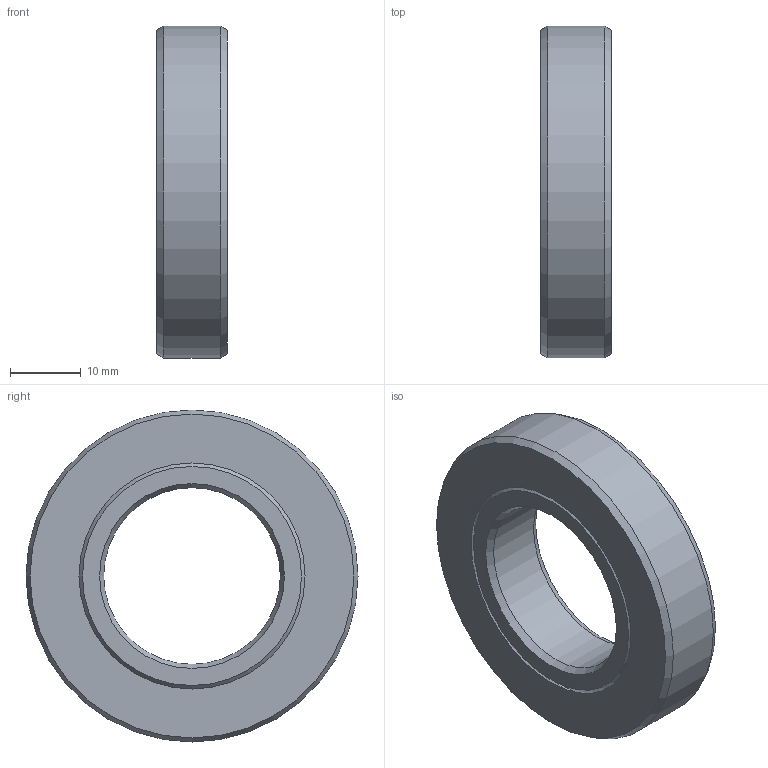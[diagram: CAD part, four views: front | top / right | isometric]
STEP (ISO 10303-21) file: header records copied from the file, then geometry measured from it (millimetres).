
FILE_DESCRIPTION(/* description */ (''),/* implementation_level */ '2;1');
FILE_NAME(/* name */ '301523 S25x47x10.stp',/* time_stamp */ '2016-12-16T13:29:25+01:00',/* author */ (''),/* organization */ (''),/* preprocessor_version */ 'ST-DEVELOPER v15',/* originating_system */ 'SIEMENS PLM Software NX 8.5',/* authorisation */ '');
FILE_SCHEMA (('CONFIG_CONTROL_DESIGN'));
Length unit declared in the file: millimetre
Products named in the file (1): ATE0000143_01
Bounding box: 10 x 47 x 47 mm (x, y, z)
Volume: 11738.4 mm3; surface area: 7235.1 mm2
Topology: 2 solids, 2 shells, 16 faces, 30 edges, 18 vertices
Faces by surface type: cone 10, plane 4, cylinder 2
Full cylindrical faces by diameter (mm): 25 x1, 47 x1
Entity records: 414 total; most frequent: DIRECTION 66, CARTESIAN_POINT 49, AXIS2_PLACEMENT_3D 33, FACE_BOUND 32, EDGE_LOOP 32, ORIENTED_EDGE 32, ADVANCED_FACE 16, VERTEX_POINT 16
